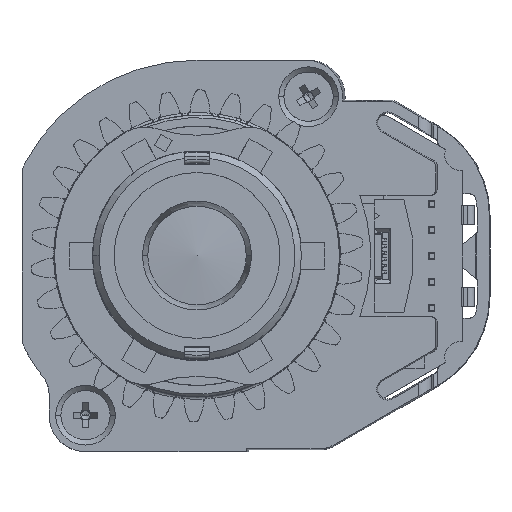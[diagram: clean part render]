
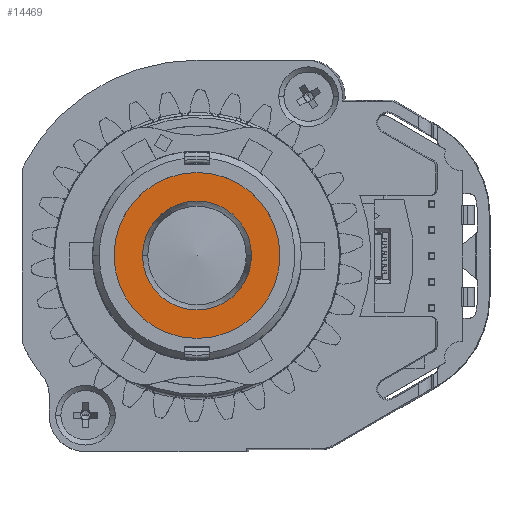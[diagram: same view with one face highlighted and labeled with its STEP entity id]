
A CAD part, top view. The second image highlights one B-rep face of the part: STEP entity #14469.
In plain terms, the highlighted planar face has unit normal (0, 0, 1).
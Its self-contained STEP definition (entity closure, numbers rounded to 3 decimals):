
#1055 = ORIENTED_EDGE ( 'NONE', *, *, #19628, .T. ) ;
#1589 = EDGE_CURVE ( 'NONE', #11501, #16970, #31232, .T. ) ;
#2440 = DIRECTION ( 'NONE',  ( 0., 0., 1. ) ) ;
#2504 = AXIS2_PLACEMENT_3D ( 'NONE', #10175, #50803, #30216 ) ;
#4610 = CARTESIAN_POINT ( 'NONE',  ( -6.4, 0., 24.43 ) ) ;
#4623 = ORIENTED_EDGE ( 'NONE', *, *, #1589, .T. ) ;
#4720 = EDGE_CURVE ( 'NONE', #16970, #11501, #60015, .T. ) ;
#6330 = CARTESIAN_POINT ( 'NONE',  ( 0., 6.4, 24.43 ) ) ;
#7365 = FACE_OUTER_BOUND ( 'NONE', #50806, .T. ) ;
#9282 = ORIENTED_EDGE ( 'NONE', *, *, #64259, .T. ) ;
#10175 = CARTESIAN_POINT ( 'NONE',  ( 0., 0., 24.43 ) ) ;
#11139 = VERTEX_POINT ( 'NONE', #4610 ) ;
#11501 = VERTEX_POINT ( 'NONE', #20175 ) ;
#11649 = DIRECTION ( 'NONE',  ( 0., 0., -1. ) ) ;
#12003 = DIRECTION ( 'NONE',  ( -1., 0., 0. ) ) ;
#14469 = ADVANCED_FACE ( 'NONE', ( #53005, #7365 ), #31665, .F. ) ;
#16970 = VERTEX_POINT ( 'NONE', #64857 ) ;
#17255 = AXIS2_PLACEMENT_3D ( 'NONE', #6330, #11649, #12003 ) ;
#17772 = DIRECTION ( 'NONE',  ( 1., 0., 0. ) ) ;
#17839 = CARTESIAN_POINT ( 'NONE',  ( 0., 0., 24.43 ) ) ;
#18158 = DIRECTION ( 'NONE',  ( 1., 0., 0. ) ) ;
#19628 = EDGE_CURVE ( 'NONE', #11139, #47063, #28584, .T. ) ;
#20138 = DIRECTION ( 'NONE',  ( -1., 0., 0. ) ) ;
#20175 = CARTESIAN_POINT ( 'NONE',  ( -4.202, 0., 24.43 ) ) ;
#25143 = CARTESIAN_POINT ( 'NONE',  ( 0., 0., 24.43 ) ) ;
#27788 = CARTESIAN_POINT ( 'NONE',  ( 0., 0., 24.43 ) ) ;
#28584 = CIRCLE ( 'NONE', #63630, 6.4 ) ;
#30039 = AXIS2_PLACEMENT_3D ( 'NONE', #17839, #63122, #18158 ) ;
#30216 = DIRECTION ( 'NONE',  ( -1., 0., 0. ) ) ;
#31232 = CIRCLE ( 'NONE', #2504, 4.202 ) ;
#31665 = PLANE ( 'NONE',  #17255 ) ;
#35566 = AXIS2_PLACEMENT_3D ( 'NONE', #25143, #45435, #20138 ) ;
#36533 = CARTESIAN_POINT ( 'NONE',  ( 6.4, 0., 24.43 ) ) ;
#45435 = DIRECTION ( 'NONE',  ( 0., 0., -1. ) ) ;
#47063 = VERTEX_POINT ( 'NONE', #36533 ) ;
#49926 = ORIENTED_EDGE ( 'NONE', *, *, #4720, .T. ) ;
#50803 = DIRECTION ( 'NONE',  ( 0., 0., -1. ) ) ;
#50806 = EDGE_LOOP ( 'NONE', ( #9282, #1055 ) ) ;
#53005 = FACE_BOUND ( 'NONE', #65521, .T. ) ;
#58717 = CIRCLE ( 'NONE', #30039, 6.4 ) ;
#60015 = CIRCLE ( 'NONE', #35566, 4.202 ) ;
#63122 = DIRECTION ( 'NONE',  ( 0., 0., 1. ) ) ;
#63630 = AXIS2_PLACEMENT_3D ( 'NONE', #27788, #2440, #17772 ) ;
#64259 = EDGE_CURVE ( 'NONE', #47063, #11139, #58717, .T. ) ;
#64857 = CARTESIAN_POINT ( 'NONE',  ( 4.202, 0., 24.43 ) ) ;
#65521 = EDGE_LOOP ( 'NONE', ( #49926, #4623 ) ) ;
